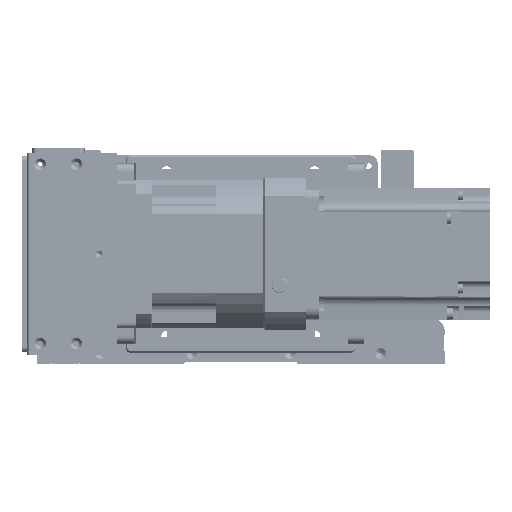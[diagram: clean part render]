
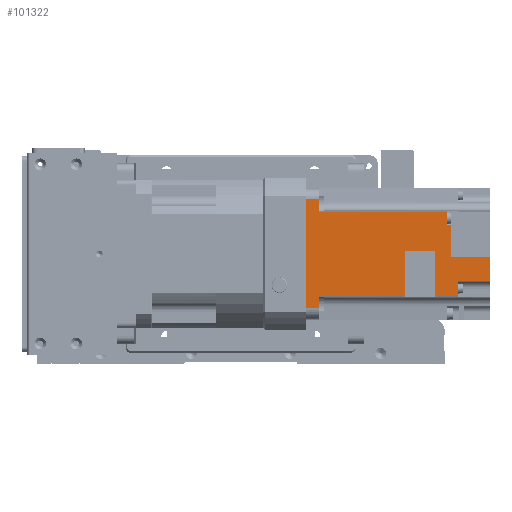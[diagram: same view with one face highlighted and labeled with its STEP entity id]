
A CAD part, front view. The second image highlights one B-rep face of the part: STEP entity #101322.
In plain terms, the highlighted planar face has unit normal (0, -1, 0.003).
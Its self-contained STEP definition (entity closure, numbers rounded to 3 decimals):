
#4338=PLANE('',#109916);
#10583=FACE_OUTER_BOUND('',#16559,.T.);
#16559=EDGE_LOOP('',(#85134,#85135,#85136,#85137,#85138,#85139,#85140,#85141,
#85142,#85143,#85144,#85145,#85146,#85147,#85148,#85149,#85150,#85151,#85152,
#85153,#85154,#85155,#85156,#85157,#85158,#85159));
#24470=LINE('',#161701,#35804);
#24471=LINE('',#161704,#35805);
#24476=LINE('',#161746,#35810);
#24480=LINE('',#161775,#35814);
#24483=LINE('',#161786,#35817);
#24484=LINE('',#161790,#35818);
#24485=LINE('',#161792,#35819);
#24486=LINE('',#161793,#35820);
#24487=LINE('',#161795,#35821);
#24488=LINE('',#161797,#35822);
#24489=LINE('',#161799,#35823);
#24490=LINE('',#161800,#35824);
#24491=LINE('',#161802,#35825);
#24492=LINE('',#161804,#35826);
#24493=LINE('',#161806,#35827);
#24494=LINE('',#161808,#35828);
#24495=LINE('',#161810,#35829);
#24496=LINE('',#161812,#35830);
#24497=LINE('',#161814,#35831);
#24498=LINE('',#161816,#35832);
#24499=LINE('',#161818,#35833);
#24500=LINE('',#161820,#35834);
#24501=LINE('',#161822,#35835);
#24502=LINE('',#161824,#35836);
#24503=LINE('',#161826,#35837);
#24504=LINE('',#161827,#35838);
#35804=VECTOR('',#129108,3.);
#35805=VECTOR('',#129111,0.009);
#35810=VECTOR('',#129150,0.009);
#35814=VECTOR('',#129180,7.342);
#35817=VECTOR('',#129191,8.);
#35818=VECTOR('',#129194,2.548);
#35819=VECTOR('',#129195,2.682);
#35820=VECTOR('',#129196,75.);
#35821=VECTOR('',#129197,66.);
#35822=VECTOR('',#129198,8.);
#35823=VECTOR('',#129199,7.342);
#35824=VECTOR('',#129200,3.);
#35825=VECTOR('',#129201,49.1);
#35826=VECTOR('',#129202,27.466);
#35827=VECTOR('',#129203,18.55);
#35828=VECTOR('',#129204,27.466);
#35829=VECTOR('',#129205,13.85);
#35830=VECTOR('',#129206,8.966);
#35831=VECTOR('',#129207,19.5);
#35832=VECTOR('',#129208,14.5);
#35833=VECTOR('',#129209,23.5);
#35834=VECTOR('',#129210,19.4);
#35835=VECTOR('',#129211,0.5);
#35836=VECTOR('',#129212,0.001);
#35837=VECTOR('',#129213,2.);
#35838=VECTOR('',#129214,3.238);
#49866=VERTEX_POINT('',#161695);
#49868=VERTEX_POINT('',#161699);
#49869=VERTEX_POINT('',#161703);
#49888=VERTEX_POINT('',#161743);
#49889=VERTEX_POINT('',#161745);
#49900=VERTEX_POINT('',#161772);
#49905=VERTEX_POINT('',#161784);
#49906=VERTEX_POINT('',#161788);
#49907=VERTEX_POINT('',#161789);
#49908=VERTEX_POINT('',#161791);
#49909=VERTEX_POINT('',#161794);
#49910=VERTEX_POINT('',#161796);
#49911=VERTEX_POINT('',#161798);
#49912=VERTEX_POINT('',#161801);
#49913=VERTEX_POINT('',#161803);
#49914=VERTEX_POINT('',#161805);
#49915=VERTEX_POINT('',#161807);
#49916=VERTEX_POINT('',#161809);
#49917=VERTEX_POINT('',#161811);
#49918=VERTEX_POINT('',#161813);
#49919=VERTEX_POINT('',#161815);
#49920=VERTEX_POINT('',#161817);
#49921=VERTEX_POINT('',#161819);
#49922=VERTEX_POINT('',#161821);
#49923=VERTEX_POINT('',#161823);
#49924=VERTEX_POINT('',#161825);
#62318=EDGE_CURVE('',#49868,#49866,#24470,.T.);
#62319=EDGE_CURVE('',#49866,#49869,#24471,.T.);
#62339=EDGE_CURVE('',#49888,#49889,#24476,.T.);
#62353=EDGE_CURVE('',#49868,#49900,#24480,.T.);
#62359=EDGE_CURVE('',#49900,#49905,#24483,.T.);
#62360=EDGE_CURVE('',#49906,#49907,#24484,.T.);
#62361=EDGE_CURVE('',#49908,#49906,#24485,.T.);
#62362=EDGE_CURVE('',#49908,#49869,#24486,.T.);
#62363=EDGE_CURVE('',#49905,#49909,#24487,.T.);
#62364=EDGE_CURVE('',#49909,#49910,#24488,.T.);
#62365=EDGE_CURVE('',#49910,#49911,#24489,.T.);
#62366=EDGE_CURVE('',#49911,#49889,#24490,.T.);
#62367=EDGE_CURVE('',#49912,#49888,#24491,.T.);
#62368=EDGE_CURVE('',#49912,#49913,#24492,.T.);
#62369=EDGE_CURVE('',#49913,#49914,#24493,.T.);
#62370=EDGE_CURVE('',#49915,#49914,#24494,.T.);
#62371=EDGE_CURVE('',#49915,#49916,#24495,.T.);
#62372=EDGE_CURVE('',#49917,#49916,#24496,.T.);
#62373=EDGE_CURVE('',#49918,#49917,#24497,.T.);
#62374=EDGE_CURVE('',#49918,#49919,#24498,.T.);
#62375=EDGE_CURVE('',#49919,#49920,#24499,.T.);
#62376=EDGE_CURVE('',#49920,#49921,#24500,.T.);
#62377=EDGE_CURVE('',#49921,#49922,#24501,.T.);
#62378=EDGE_CURVE('',#49923,#49922,#24502,.T.);
#62379=EDGE_CURVE('',#49923,#49924,#24503,.T.);
#62380=EDGE_CURVE('',#49907,#49924,#24504,.T.);
#85134=ORIENTED_EDGE('',*,*,#62360,.F.);
#85135=ORIENTED_EDGE('',*,*,#62361,.F.);
#85136=ORIENTED_EDGE('',*,*,#62362,.T.);
#85137=ORIENTED_EDGE('',*,*,#62319,.F.);
#85138=ORIENTED_EDGE('',*,*,#62318,.F.);
#85139=ORIENTED_EDGE('',*,*,#62353,.T.);
#85140=ORIENTED_EDGE('',*,*,#62359,.T.);
#85141=ORIENTED_EDGE('',*,*,#62363,.T.);
#85142=ORIENTED_EDGE('',*,*,#62364,.T.);
#85143=ORIENTED_EDGE('',*,*,#62365,.T.);
#85144=ORIENTED_EDGE('',*,*,#62366,.T.);
#85145=ORIENTED_EDGE('',*,*,#62339,.F.);
#85146=ORIENTED_EDGE('',*,*,#62367,.F.);
#85147=ORIENTED_EDGE('',*,*,#62368,.T.);
#85148=ORIENTED_EDGE('',*,*,#62369,.T.);
#85149=ORIENTED_EDGE('',*,*,#62370,.F.);
#85150=ORIENTED_EDGE('',*,*,#62371,.T.);
#85151=ORIENTED_EDGE('',*,*,#62372,.F.);
#85152=ORIENTED_EDGE('',*,*,#62373,.F.);
#85153=ORIENTED_EDGE('',*,*,#62374,.T.);
#85154=ORIENTED_EDGE('',*,*,#62375,.T.);
#85155=ORIENTED_EDGE('',*,*,#62376,.T.);
#85156=ORIENTED_EDGE('',*,*,#62377,.T.);
#85157=ORIENTED_EDGE('',*,*,#62378,.F.);
#85158=ORIENTED_EDGE('',*,*,#62379,.T.);
#85159=ORIENTED_EDGE('',*,*,#62380,.F.);
#101322=ADVANCED_FACE('',(#10583),#4338,.F.);
#109916=AXIS2_PLACEMENT_3D('',#161787,#129192,#129193);
#129108=DIRECTION('',(0.,0.,-1.));
#129111=DIRECTION('',(1.,0.,0.));
#129150=DIRECTION('',(1.,0.,0.));
#129180=DIRECTION('',(1.,0.,0.));
#129191=DIRECTION('',(0.,0.,1.));
#129192=DIRECTION('center_axis',(0.,1.,0.));
#129193=DIRECTION('ref_axis',(1.,0.,0.));
#129194=DIRECTION('',(-1.,0.,0.));
#129195=DIRECTION('',(-1.,0.,0.));
#129196=DIRECTION('',(0.,0.,1.));
#129197=DIRECTION('',(-1.,0.,0.));
#129198=DIRECTION('',(0.,0.,-1.));
#129199=DIRECTION('',(1.,0.,0.));
#129200=DIRECTION('',(0.,0.,-1.));
#129201=DIRECTION('',(0.,0.,1.));
#129202=DIRECTION('',(1.,0.,0.));
#129203=DIRECTION('',(0.,0.,-1.));
#129204=DIRECTION('',(1.,0.,0.));
#129205=DIRECTION('',(0.,0.,-1.));
#129206=DIRECTION('',(-1.,0.,0.));
#129207=DIRECTION('',(0.,0.,1.));
#129208=DIRECTION('',(1.,0.,0.));
#129209=DIRECTION('',(0.,0.,1.));
#129210=DIRECTION('',(1.,0.,0.));
#129211=DIRECTION('',(0.,0.,1.));
#129212=DIRECTION('',(1.,0.,0.));
#129213=DIRECTION('',(0.,0.,1.));
#129214=DIRECTION('',(-1.,0.,0.));
#161695=CARTESIAN_POINT('',(25.658,-40.,-11.));
#161699=CARTESIAN_POINT('',(25.658,-40.,-8.));
#161701=CARTESIAN_POINT('',(25.658,-40.,-8.));
#161703=CARTESIAN_POINT('',(25.666,-40.,-11.));
#161704=CARTESIAN_POINT('',(25.658,-40.,-11.));
#161743=CARTESIAN_POINT('',(-25.666,-40.,-11.));
#161745=CARTESIAN_POINT('',(-25.658,-40.,-11.));
#161746=CARTESIAN_POINT('',(-25.666,-40.,-11.));
#161772=CARTESIAN_POINT('',(33.,-40.,-8.));
#161775=CARTESIAN_POINT('',(25.658,-40.,-8.));
#161784=CARTESIAN_POINT('',(33.,-40.,0.));
#161786=CARTESIAN_POINT('',(33.,-40.,-8.));
#161787=CARTESIAN_POINT('Origin',(0.,-40.,-5.5));
#161788=CARTESIAN_POINT('',(22.985,-40.,-86.));
#161789=CARTESIAN_POINT('',(20.437,-40.,-86.));
#161790=CARTESIAN_POINT('',(22.985,-40.,-86.));
#161791=CARTESIAN_POINT('',(25.666,-40.,-86.));
#161792=CARTESIAN_POINT('',(25.666,-40.,-86.));
#161793=CARTESIAN_POINT('',(25.666,-40.,-86.));
#161794=CARTESIAN_POINT('',(-33.,-40.,0.));
#161795=CARTESIAN_POINT('',(33.,-40.,0.));
#161796=CARTESIAN_POINT('',(-33.,-40.,-8.));
#161797=CARTESIAN_POINT('',(-33.,-40.,0.));
#161798=CARTESIAN_POINT('',(-25.658,-40.,-8.));
#161799=CARTESIAN_POINT('',(-33.,-40.,-8.));
#161800=CARTESIAN_POINT('',(-25.658,-40.,-8.));
#161801=CARTESIAN_POINT('',(-25.666,-40.,-60.1));
#161802=CARTESIAN_POINT('',(-25.666,-40.,-60.1));
#161803=CARTESIAN_POINT('',(1.8,-40.,-60.1));
#161804=CARTESIAN_POINT('',(-25.666,-40.,-60.1));
#161805=CARTESIAN_POINT('',(1.8,-40.,-78.65));
#161806=CARTESIAN_POINT('',(1.8,-40.,-60.1));
#161807=CARTESIAN_POINT('',(-25.666,-40.,-78.65));
#161808=CARTESIAN_POINT('',(-25.666,-40.,-78.65));
#161809=CARTESIAN_POINT('',(-25.666,-40.,-92.5));
#161810=CARTESIAN_POINT('',(-25.666,-40.,-78.65));
#161811=CARTESIAN_POINT('',(-16.7,-40.,-92.5));
#161812=CARTESIAN_POINT('',(-16.7,-40.,-92.5));
#161813=CARTESIAN_POINT('',(-16.7,-40.,-112.));
#161814=CARTESIAN_POINT('',(-16.7,-40.,-112.));
#161815=CARTESIAN_POINT('',(-2.2,-40.,-112.));
#161816=CARTESIAN_POINT('',(-16.7,-40.,-112.));
#161817=CARTESIAN_POINT('',(-2.2,-40.,-88.5));
#161818=CARTESIAN_POINT('',(-2.2,-40.,-112.));
#161819=CARTESIAN_POINT('',(17.2,-40.,-88.5));
#161820=CARTESIAN_POINT('',(-2.2,-40.,-88.5));
#161821=CARTESIAN_POINT('',(17.2,-40.,-88.));
#161822=CARTESIAN_POINT('',(17.2,-40.,-88.5));
#161823=CARTESIAN_POINT('',(17.199,-40.,-88.));
#161824=CARTESIAN_POINT('',(17.199,-40.,-88.));
#161825=CARTESIAN_POINT('',(17.199,-40.,-86.));
#161826=CARTESIAN_POINT('',(17.199,-40.,-88.));
#161827=CARTESIAN_POINT('',(20.437,-40.,-86.));
